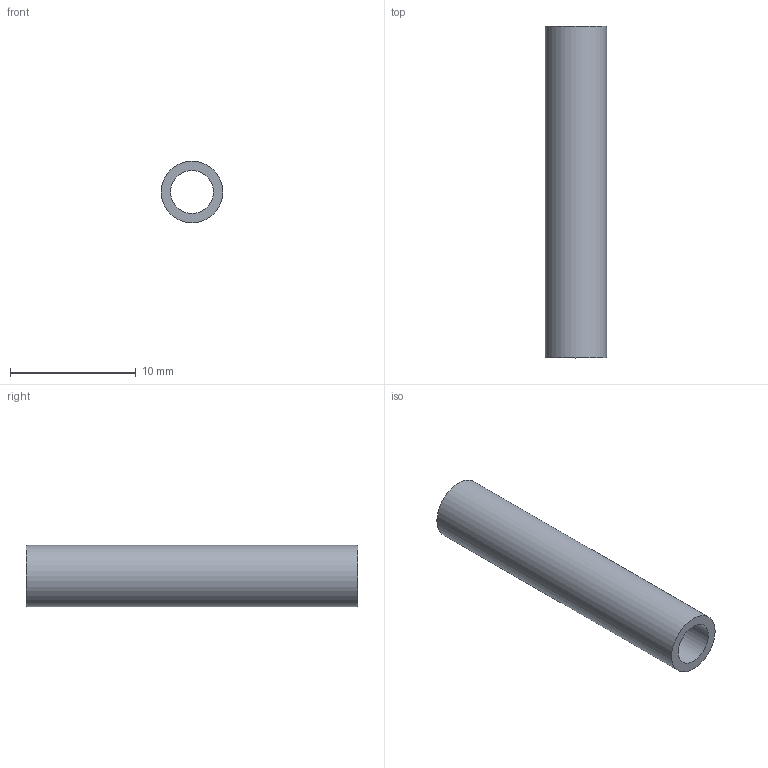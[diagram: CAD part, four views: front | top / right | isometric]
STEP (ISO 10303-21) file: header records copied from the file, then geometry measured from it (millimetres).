
FILE_DESCRIPTION(('Open CASCADE Model'),'2;1');
FILE_NAME('S01-root_axle_sleeve.step', '', ('Noah Wilson'), (''), '', '', '');
FILE_SCHEMA(('AUTOMOTIVE_DESIGN { 1 0 10303 214 1 1 1 1 }'));
Length unit declared in the file: millimetre
Products named in the file (2): =>[0:1:1:2]; COMPOUND
Assembly tree (1 placements, depth 2):
  =>[0:1:1:2]
    COMPOUND
Bounding box: 4.9 x 26.4 x 4.9 mm (x, y, z)
Volume: 258.1 mm3; surface area: 707.9 mm2
Topology: 1 solids, 1 shells, 4 faces, 6 edges, 4 vertices
Faces by surface type: cylinder 2, plane 2
Full cylindrical faces by diameter (mm): 3.4 x1, 4.9 x1
Entity records: 204 total; most frequent: DIRECTION 34, CARTESIAN_POINT 28, ORIENTED_EDGE 12, PCURVE 12, DEFINITIONAL_REPRESENTATION 12, AXIS2_PLACEMENT_3D 10, LINE 10, VECTOR 10
